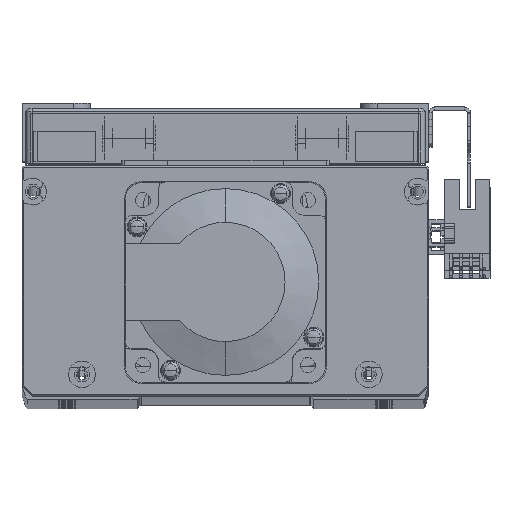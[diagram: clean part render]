
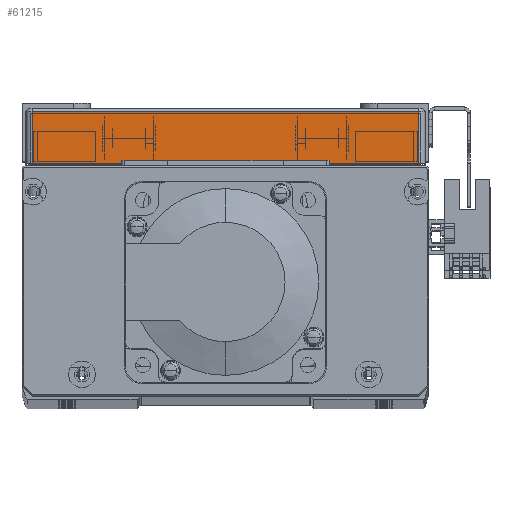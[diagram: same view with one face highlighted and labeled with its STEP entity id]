
A CAD part, top view. The second image highlights one B-rep face of the part: STEP entity #61215.
In plain terms, the highlighted planar face has unit normal (0, 0, 1) as drawn and (1, 0, 0) by its records, which use the part's own axes.
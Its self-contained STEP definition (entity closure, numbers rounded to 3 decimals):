
#3274 = ORIENTED_EDGE ( 'NONE', *, *, #13771, .T. ) ;
#3310 = ORIENTED_EDGE ( 'NONE', *, *, #13799, .T. ) ;
#3330 = ORIENTED_EDGE ( 'NONE', *, *, #13854, .T. ) ;
#3336 = ORIENTED_EDGE ( 'NONE', *, *, #13842, .T. ) ;
#6110 = CARTESIAN_POINT ( 'NONE',  ( 85.5, 16.5, -58. ) ) ;
#6111 = DIRECTION ( 'NONE',  ( 0., 1., 0. ) ) ;
#6181 = DIRECTION ( 'NONE',  ( 0., 0., -1. ) ) ;
#6216 = CARTESIAN_POINT ( 'NONE',  ( 85.5, 0., -60. ) ) ;
#6266 = DIRECTION ( 'NONE',  ( 0., 0., 1. ) ) ;
#6273 = CARTESIAN_POINT ( 'NONE',  ( 85.5, 15.5, 58. ) ) ;
#6323 = DIRECTION ( 'NONE',  ( 0., -1., 0. ) ) ;
#6336 = CARTESIAN_POINT ( 'NONE',  ( 85.5, 16.5, 58. ) ) ;
#6792 = LINE ( 'NONE', #6336, #6812 ) ;
#6812 = VECTOR ( 'NONE', #6323, 1000. ) ;
#6817 = LINE ( 'NONE', #6273, #6820 ) ;
#6820 = VECTOR ( 'NONE', #6266, 1000. ) ;
#9907 = EDGE_LOOP ( 'NONE', ( #3274, #3336, #3330, #3310 ) ) ;
#13771 = EDGE_CURVE ( 'NONE', #15815, #15729, #48877, .T. ) ;
#13799 = EDGE_CURVE ( 'NONE', #15875, #15815, #48881, .T. ) ;
#13842 = EDGE_CURVE ( 'NONE', #15729, #15898, #6817, .T. ) ;
#13854 = EDGE_CURVE ( 'NONE', #15898, #15875, #6792, .T. ) ;
#15729 = VERTEX_POINT ( 'NONE', #21767 ) ;
#15815 = VERTEX_POINT ( 'NONE', #21822 ) ;
#15875 = VERTEX_POINT ( 'NONE', #21913 ) ;
#15898 = VERTEX_POINT ( 'NONE', #21945 ) ;
#17975 = AXIS2_PLACEMENT_3D ( 'NONE', #28418, #28420, #28454 ) ;
#21767 = CARTESIAN_POINT ( 'NONE',  ( 85.5, 15.5, -58. ) ) ;
#21822 = CARTESIAN_POINT ( 'NONE',  ( 85.5, 0., -58. ) ) ;
#21913 = CARTESIAN_POINT ( 'NONE',  ( 85.5, 0., 58. ) ) ;
#21945 = CARTESIAN_POINT ( 'NONE',  ( 85.5, 15.5, 58. ) ) ;
#22798 = FACE_OUTER_BOUND ( 'NONE', #9907, .T. ) ;
#28417 = PLANE ( 'NONE',  #17975 ) ;
#28418 = CARTESIAN_POINT ( 'NONE',  ( 85.5, 16.5, -60. ) ) ;
#28420 = DIRECTION ( 'NONE',  ( -1., 0., 0. ) ) ;
#28454 = DIRECTION ( 'NONE',  ( 0., 0., 1. ) ) ;
#48850 = VECTOR ( 'NONE', #6181, 1000. ) ;
#48877 = LINE ( 'NONE', #6110, #48888 ) ;
#48881 = LINE ( 'NONE', #6216, #48850 ) ;
#48888 = VECTOR ( 'NONE', #6111, 1000. ) ;
#61215 = ADVANCED_FACE ( 'NONE', ( #22798 ), #28417, .F. ) ;
